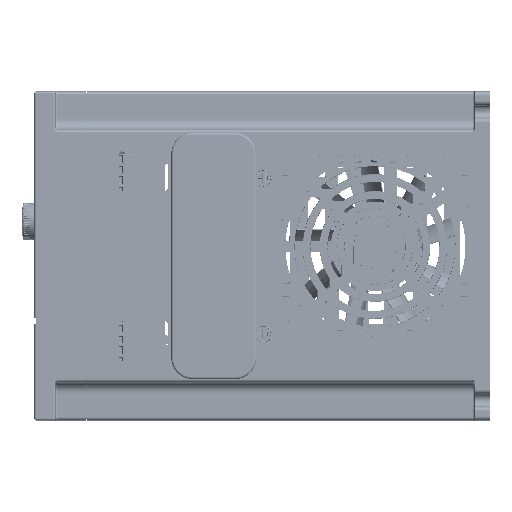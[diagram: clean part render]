
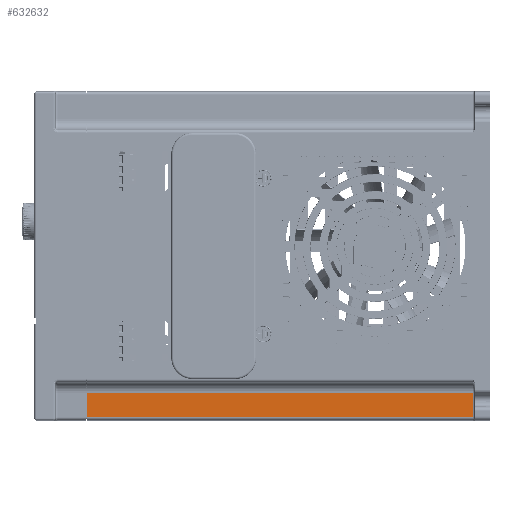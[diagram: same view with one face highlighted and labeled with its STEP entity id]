
A CAD part, left-side view. The second image highlights one B-rep face of the part: STEP entity #632632.
In plain terms, the highlighted planar face has unit normal (-1, 0, 0) as drawn and (0, -1, 0) by its records, which use the part's own axes.
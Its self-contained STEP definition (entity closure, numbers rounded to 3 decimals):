
#4672 = EDGE_CURVE ( 'NONE', #464891, #272607, #458504, .T. ) ;
#8408 = LINE ( 'NONE', #292183, #258641 ) ;
#46698 = CARTESIAN_POINT ( 'NONE',  ( 137., 18., 10. ) ) ;
#53521 = CARTESIAN_POINT ( 'NONE',  ( 153.5, 18., 206.5 ) ) ;
#73451 = LINE ( 'NONE', #623435, #582402 ) ;
#75471 = VECTOR ( 'NONE', #198506, 1000. ) ;
#147167 = DIRECTION ( 'NONE',  ( 0., 0., -1. ) ) ;
#169502 = DIRECTION ( 'NONE',  ( 0., 0., 1. ) ) ;
#189131 = CARTESIAN_POINT ( 'NONE',  ( 153.5, 18., 25. ) ) ;
#190738 = EDGE_CURVE ( 'NONE', #318972, #207117, #8408, .T. ) ;
#198506 = DIRECTION ( 'NONE',  ( 1., 0., 0. ) ) ;
#207117 = VERTEX_POINT ( 'NONE', #511433 ) ;
#222040 = ORIENTED_EDGE ( 'NONE', *, *, #610855, .T. ) ;
#258641 = VECTOR ( 'NONE', #591231, 1000. ) ;
#272607 = VERTEX_POINT ( 'NONE', #189131 ) ;
#274101 = DIRECTION ( 'NONE',  ( 0., 0., -1. ) ) ;
#292183 = CARTESIAN_POINT ( 'NONE',  ( 142., 18., 206.5 ) ) ;
#292659 = ORIENTED_EDGE ( 'NONE', *, *, #190738, .T. ) ;
#318972 = VERTEX_POINT ( 'NONE', #53521 ) ;
#338804 = EDGE_CURVE ( 'NONE', #272607, #318972, #500391, .T. ) ;
#344584 = AXIS2_PLACEMENT_3D ( 'NONE', #46698, #446564, #147167 ) ;
#396374 = PLANE ( 'NONE',  #344584 ) ;
#425015 = CARTESIAN_POINT ( 'NONE',  ( 142., 18., 25. ) ) ;
#436727 = EDGE_LOOP ( 'NONE', ( #540959, #292659, #222040, #543771 ) ) ;
#446564 = DIRECTION ( 'NONE',  ( 0., -1., 0. ) ) ;
#450489 = FACE_OUTER_BOUND ( 'NONE', #436727, .T. ) ;
#458504 = LINE ( 'NONE', #545838, #75471 ) ;
#464891 = VERTEX_POINT ( 'NONE', #425015 ) ;
#500391 = LINE ( 'NONE', #519010, #617413 ) ;
#511433 = CARTESIAN_POINT ( 'NONE',  ( 142., 18., 206.5 ) ) ;
#519010 = CARTESIAN_POINT ( 'NONE',  ( 153.5, 18., 207.5 ) ) ;
#540959 = ORIENTED_EDGE ( 'NONE', *, *, #338804, .T. ) ;
#543771 = ORIENTED_EDGE ( 'NONE', *, *, #4672, .T. ) ;
#545838 = CARTESIAN_POINT ( 'NONE',  ( 137., 18., 25. ) ) ;
#582402 = VECTOR ( 'NONE', #274101, 1000. ) ;
#591231 = DIRECTION ( 'NONE',  ( -1., 0., 0. ) ) ;
#610855 = EDGE_CURVE ( 'NONE', #207117, #464891, #73451, .T. ) ;
#617413 = VECTOR ( 'NONE', #169502, 1000. ) ;
#623435 = CARTESIAN_POINT ( 'NONE',  ( 142., 18., 10. ) ) ;
#632632 = ADVANCED_FACE ( 'NONE', ( #450489 ), #396374, .T. ) ;
